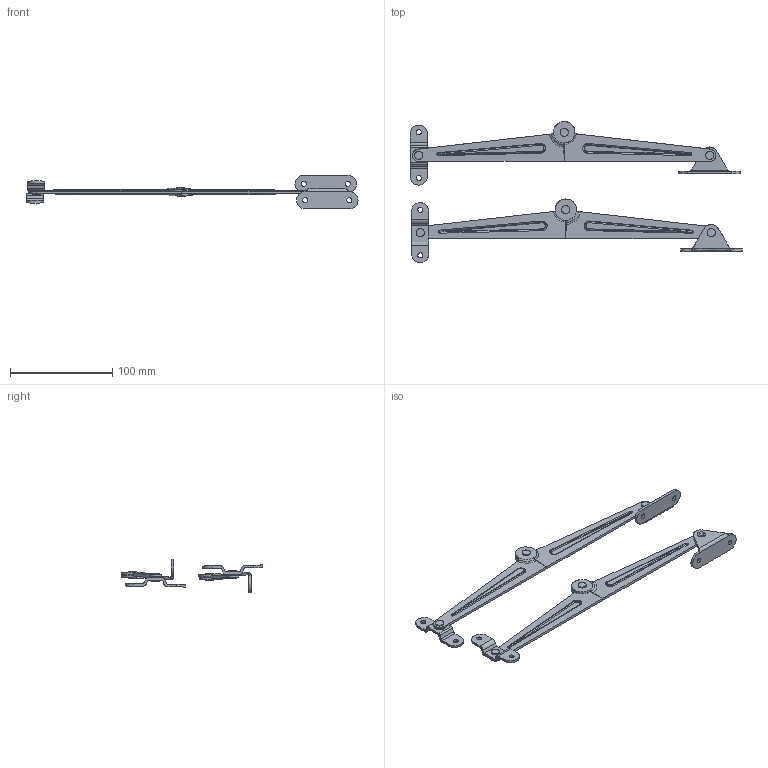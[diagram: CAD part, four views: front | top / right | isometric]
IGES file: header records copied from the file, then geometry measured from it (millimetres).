
Global section: file name: DR_SY-6; native system: Autodesk Inventor 2015; preprocessor: unknown; author: user; date: 20180309.173228; units: millimetre
Bounding box: 324.03 x 137.85 x 32.94 mm (x, y, z)
Volume: 45358.9 mm3; surface area: 44042.5 mm2
Topology: 16 solids, 16 shells, 286 faces, 702 edges, 452 vertices
Faces by surface type: bspline 286
